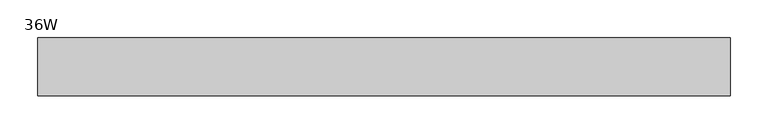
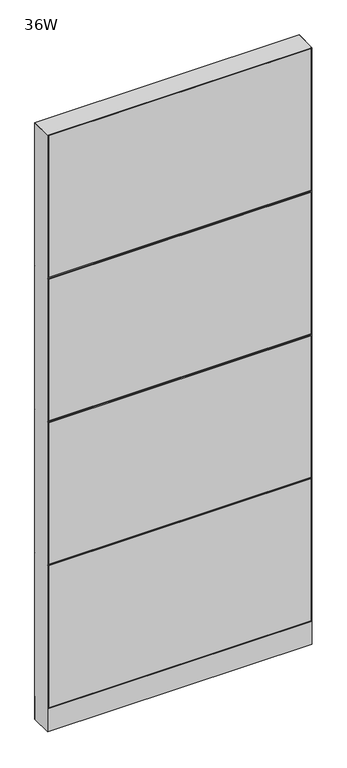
"""IFC4 building model written with IfcOpenShell, lengths in millimetres: furniture geometry, Steelcase - Montage - Frame - 86H - Enhanced Monolithic - Base Cavity : 36W."""

import ifcopenshell
import ifcopenshell.guid

model = None  # the IFC model being written
_history = None  # IfcOwnerHistory: only IFC2X3 demands one
_inside = {}  # id of a spatial element -> (the spatial element, [elements in it])
_under = {}  # id of a project, library or spatial element -> (it, [spatial elements below it])
_declared = {}  # id of a project -> (the project, [libraries it declares])
_typed = {}  # id of a type object -> (the type object, [elements of that type])
_made_of = {}  # id of a material, layer set ... -> (it, [elements and type objects made of it])


def new_model(schema):
    """Start an empty IFC model of exactly this schema.

    Asked for "IFC4X3", IfcOpenShell would pick the latest addendum, in which some entities
    have other attributes; the version numbers below select the first issue.
    IFC2X3 requires an IfcOwnerHistory on every rooted entity: one is made here for all.
    """
    global model, _history
    if schema == "IFC4X3":
        model = ifcopenshell.file(schema_version=(4, 3, 0, 0))
    else:
        model = ifcopenshell.file(schema=schema)
    _inside.clear()
    _under.clear()
    _declared.clear()
    _typed.clear()
    _made_of.clear()
    _history = None
    if model.schema == "IFC2X3":
        org = make("IfcOrganization", Name="unknown")
        user = make(
            "IfcPersonAndOrganization",
            ThePerson=make("IfcPerson", FamilyName="unknown"),
            TheOrganization=org,
        )
        app = make(
            "IfcApplication",
            ApplicationDeveloper=org,
            Version="unknown",
            ApplicationFullName="unknown",
            ApplicationIdentifier="unknown",
        )
        _history = make(
            "IfcOwnerHistory",
            OwningUser=user,
            OwningApplication=app,
            ChangeAction="ADDED",
            CreationDate=0,
        )
    return model


def make(cls, **values):
    """One entity of the class cls with the attributes given. An attribute that is None is left unset."""
    return model.create_entity(
        cls, **{name: value for name, value in values.items() if value is not None}
    )


def rooted(cls, **values):
    """An entity with a GlobalId (a new one), such as an element, a storey or a relation."""
    return make(cls, GlobalId=ifcopenshell.guid.new(), OwnerHistory=_history, **values)


def si_unit(unit_type, name, prefix=None):
    """IfcSIUnit, for example si_unit("LENGTHUNIT", "METRE", prefix="MILLI")."""
    return make("IfcSIUnit", UnitType=unit_type, Prefix=prefix, Name=name)


def assignment(units):
    """IfcUnitAssignment: the units of a project."""
    return None if units is None else make("IfcUnitAssignment", Units=units)


def point(xyz):
    """IfcCartesianPoint."""
    return None if xyz is None else make("IfcCartesianPoint", Coordinates=xyz)


def direction(xyz):
    """IfcDirection."""
    return None if xyz is None else make("IfcDirection", DirectionRatios=xyz)


def frame(location, z_axis=None, x_axis=None):
    """IfcAxis2Placement3D, a coordinate frame: its origin and axes. An axis left out is left unset."""
    return make(
        "IfcAxis2Placement3D",
        Location=point(location),
        Axis=direction(z_axis),
        RefDirection=direction(x_axis),
    )


def frame_2d(location, x_axis=None):
    """IfcAxis2Placement2D, a coordinate frame in the plane: its origin and x axis."""
    return make(
        "IfcAxis2Placement2D", Location=point(location), RefDirection=direction(x_axis)
    )


def origin():
    """The frame at (0, 0, 0) with its axes left unset."""
    return frame((0.0, 0.0, 0.0))


def origin_with_axes():
    """The frame at (0, 0, 0) with the z axis (0, 0, 1) and the x axis (1, 0, 0) written out."""
    return frame((0.0, 0.0, 0.0), z_axis=(0.0, 0.0, 1.0), x_axis=(1.0, 0.0, 0.0))


def place(relative_to, where):
    """IfcLocalPlacement: puts the frame where relative to a parent placement (None: the world)."""
    return make(
        "IfcLocalPlacement", PlacementRelTo=relative_to, RelativePlacement=where
    )


def context(
    kind, dimensions, precision=None, world=None, true_north=None, identifier=None
):
    """IfcGeometricRepresentationContext, for example the 3D "Model" context."""
    return make(
        "IfcGeometricRepresentationContext",
        ContextIdentifier=identifier,
        ContextType=kind,
        CoordinateSpaceDimension=dimensions,
        Precision=precision,
        WorldCoordinateSystem=world,
        TrueNorth=true_north,
    )


def project(units=None, contexts=None):
    """IfcProject with its units and contexts."""
    return rooted(
        "IfcProject",
        Name="project",
        RepresentationContexts=contexts,
        UnitsInContext=assignment(units),
    )


def spatial(cls, under=None, at=None, **own):
    """A site, building, storey or space (cls), placed at a placement, below another one or the project."""
    s = rooted(cls, ObjectPlacement=at, **own)
    if under is not None:
        _under.setdefault(under.id(), (under, []))[1].append(s)
    return s


def polyline(points):
    """IfcPolyline through the points."""
    return make("IfcPolyline", Points=[point(p) for p in points])


def circle_curve(where, radius):
    """IfcCircle in the frame where."""
    return make("IfcCircle", Position=where, Radius=radius)


def trimmed(basis, trim1, trim2, sense, master):
    """IfcTrimmedCurve: the piece of a basis curve between two trims."""
    return make(
        "IfcTrimmedCurve",
        BasisCurve=basis,
        Trim1=trim1,
        Trim2=trim2,
        SenseAgreement=sense,
        MasterRepresentation=master,
    )


def segment(curve, same_sense, transition):
    """IfcCompositeCurveSegment."""
    return make(
        "IfcCompositeCurveSegment",
        Transition=transition,
        SameSense=same_sense,
        ParentCurve=curve,
    )


def composite_curve(segments, self_intersect=None):
    """IfcCompositeCurve: segments joined end to end."""
    return make("IfcCompositeCurve", Segments=segments, SelfIntersect=self_intersect)


def outline(outer, holes=None, kind="AREA"):
    """IfcArbitraryClosedProfileDef: a profile drawn as a closed curve; with holes, ...WithVoids."""
    if holes is None:
        return make("IfcArbitraryClosedProfileDef", ProfileType=kind, OuterCurve=outer)
    return make(
        "IfcArbitraryProfileDefWithVoids",
        ProfileType=kind,
        OuterCurve=outer,
        InnerCurves=holes,
    )


def extrude(swept, where, along, depth):
    """IfcExtrudedAreaSolid: the profile swept, set in the frame where, extruded along a direction by depth."""
    return make(
        "IfcExtrudedAreaSolid",
        SweptArea=swept,
        Position=where,
        ExtrudedDirection=direction(along),
        Depth=depth,
    )


def faces_of(points, faces, orient=None, outer=None):
    """IfcFace entities. A face is a list of loops; a loop is a list of indices into points, from 0.

    orient and outer hold one flag for each loop. By default every Orientation is true, the
    first loop of a face is its IfcFaceOuterBound and the others are IfcFaceBound.
    """
    made = []
    for i, loops in enumerate(faces):
        bounds = []
        for j, loop in enumerate(loops):
            is_outer = j == 0 if outer is None else outer[i][j]
            bounds.append(
                make(
                    "IfcFaceOuterBound" if is_outer else "IfcFaceBound",
                    Bound=make("IfcPolyLoop", Polygon=[points[k] for k in loop]),
                    Orientation=True if orient is None else orient[i][j],
                )
            )
        made.append(make("IfcFace", Bounds=bounds))
    return made


def faceted_brep(points, faces, orient=None, outer=None, voids=None):
    """IfcFacetedBrep: a solid bounded by flat faces; with voids (closed shells), ...WithVoids."""
    shared = [point(p) for p in points]
    hull = make("IfcClosedShell", CfsFaces=faces_of(shared, faces, orient, outer))
    if voids is None:
        return make("IfcFacetedBrep", Outer=hull)
    return make(
        "IfcFacetedBrepWithVoids",
        Outer=hull,
        Voids=[
            make(cls, CfsFaces=faces_of(shared, fs, o, b)) for cls, fs, o, b in voids
        ],
    )


def shape(context_of_items, identifier, shape_type, items):
    """IfcShapeRepresentation: the items that make up one representation, for example the "Body"."""
    return make(
        "IfcShapeRepresentation",
        ContextOfItems=context_of_items,
        RepresentationIdentifier=identifier,
        RepresentationType=shape_type,
        Items=items,
    )


def source(mapping_origin, context_of_items, identifier, shape_type, items):
    """IfcRepresentationMap: a shape defined once, which mapped items show again and again."""
    return make(
        "IfcRepresentationMap",
        MappingOrigin=mapping_origin,
        MappedRepresentation=shape(context_of_items, identifier, shape_type, items),
    )


def transform(
    local_origin,
    x_axis=None,
    y_axis=None,
    z_axis=None,
    scale=None,
    scale2=None,
    scale3=None,
    uniform=True,
):
    """IfcCartesianTransformationOperator3D, or its non-uniform kind. x_axis, y_axis, z_axis: its Axis1, 2, 3."""
    if uniform:
        return make(
            "IfcCartesianTransformationOperator3D",
            Axis1=direction(x_axis),
            Axis2=direction(y_axis),
            LocalOrigin=point(local_origin),
            Scale=scale,
            Axis3=direction(z_axis),
        )
    return make(
        "IfcCartesianTransformationOperator3DnonUniform",
        Axis1=direction(x_axis),
        Axis2=direction(y_axis),
        LocalOrigin=point(local_origin),
        Scale=scale,
        Axis3=direction(z_axis),
        Scale2=scale2,
        Scale3=scale3,
    )


def mapped(mapping_source, mapping_target):
    """IfcMappedItem: shows the shape of a source again, moved by a transform."""
    return make(
        "IfcMappedItem", MappingSource=mapping_source, MappingTarget=mapping_target
    )


def made_of(thing, what):
    """Note that an element or type object is made of a material, layer set ...; save() writes the relation."""
    if what is not None:
        _made_of.setdefault(what.id(), (what, []))[1].append(thing)
    return thing


def element(
    cls,
    number,
    at=None,
    inside=None,
    cuts=None,
    type_object=None,
    material=None,
    context=None,
    identifier="Body",
    shape_type=None,
    held_by="IfcProductDefinitionShape",
    body=None,
    shapes=None,
    **own,
):
    """One element of the class cls, such as IfcWall. Its Tag is "e" and its number.

    at: its placement. inside: the storey or other place that contains it. cuts: it is an
    opening in that element (IfcRelVoidsElement). A single representation is given by context,
    identifier, shape_type and body (its items); several are given by shapes. held_by: the class
    of the entity that holds the representations. save() writes the other relations.
    """
    e = rooted(cls, Tag="e%d" % number, ObjectPlacement=at, **own)
    if body is not None:
        shapes = [shape(context, identifier, shape_type, body)]
    if shapes is not None:
        e.Representation = make(held_by, Representations=shapes)
    if inside is not None:
        _inside.setdefault(inside.id(), (inside, []))[1].append(e)
    if cuts is not None:
        rooted(
            "IfcRelVoidsElement", RelatingBuildingElement=cuts, RelatedOpeningElement=e
        )
    if type_object is not None:
        _typed.setdefault(type_object.id(), (type_object, []))[1].append(e)
    return made_of(e, material)


def aggregate(whole, parts):
    """IfcRelAggregates: a whole, such as a stair, and the parts it consists of."""
    return rooted("IfcRelAggregates", RelatingObject=whole, RelatedObjects=parts)


def save(model, path):
    """Write the relations noted so far, then the file.

    IfcRelAggregates (storeys below a building ...), IfcRelContainedInSpatialStructure (elements
    in a storey), IfcRelDefinesByType, IfcRelAssociatesMaterial and IfcRelDeclares: one each for
    every whole, place, type object, material and project.
    """
    for whole, parts in _under.values():
        aggregate(whole, parts)
    for where, things in _inside.values():
        rooted(
            "IfcRelContainedInSpatialStructure",
            RelatedElements=things,
            RelatingStructure=where,
        )
    for kind, things in _typed.values():
        rooted("IfcRelDefinesByType", RelatedObjects=things, RelatingType=kind)
    for what, things in _made_of.values():
        rooted("IfcRelAssociatesMaterial", RelatedObjects=things, RelatingMaterial=what)
    for by, libraries in _declared.values():
        rooted("IfcRelDeclares", RelatingContext=by, RelatedDefinitions=libraries)
    model.write(path)


def furniture_36w_d619b393(model_context):
    return source(origin(), model_context, "Body", "SolidModel", [
        faceted_brep([(-5.4e-06, 38.102627, 1136.6500027), (6.3499917, 31.7526299, 1142.9999997), (908.0500047, 31.7526299, 1142.9999997), (914.4, 38.1026253, 1136.6500044), (908.0500047, 31.7526299, 1130.3000003), (6.3499917, 31.7526299, 1130.3000003)], [[[0, 1, 2, 3]], [[3, 4, 5, 0]], [[1, 5, 4, 2]], [[0, 5, 1]], [[2, 4, 3]]]),
        faceted_brep([(-5.4e-06, 38.102627, 612.7750027), (6.3499917, 31.7526299, 619.1249997), (908.0500047, 31.7526299, 619.1249997), (914.4, 38.1026253, 612.7750044), (908.0500047, 31.7526299, 606.4250003), (6.3499917, 31.7526299, 606.4250003)], [[[0, 1, 2, 3]], [[3, 4, 5, 0]], [[1, 5, 4, 2]], [[0, 5, 1]], [[2, 4, 3]]]),
        faceted_brep([(-5.4e-06, 38.102627, 1660.5250027), (6.3499917, 31.7526299, 1666.8749997), (908.0500047, 31.7526299, 1666.8749997), (914.4, 38.1026253, 1660.5250044), (908.0500047, 31.7526299, 1654.1750003), (6.3499917, 31.7526299, 1654.1750003)], [[[0, 1, 2, 3]], [[3, 4, 5, 0]], [[1, 5, 4, 2]], [[0, 5, 1]], [[2, 4, 3]]]),
        extrude(outline(polyline([(3.175, 31.7500194), (3.175, 38.1000194), (911.225, 38.1000194), (911.225, 31.7500194), (3.175, 31.7500194)])), frame((0.0, 0.0, 1663.7), z_axis=(0.0, 0.0, 1.0), x_axis=(1.0, 0.0, 0.0)), (0.0, 0.0, 1.0), 517.525),
        extrude(outline(polyline([(3.175, 31.7500194), (3.175, 38.1000194), (911.225, 38.1000194), (911.225, 31.7500194), (3.175, 31.7500194)])), frame((0.0, 0.0, 92.075), z_axis=(0.0, 0.0, 1.0), x_axis=(1.0, 0.0, 0.0)), (0.0, 0.0, 1.0), 517.525),
        extrude(outline(polyline([(3.175, 31.7500194), (3.175, 38.1000194), (911.225, 38.1000194), (911.225, 31.7500194), (3.175, 31.7500194)])), frame((0.0, 0.0, 615.95), z_axis=(0.0, 0.0, 1.0), x_axis=(1.0, 0.0, 0.0)), (0.0, 0.0, 1.0), 517.525),
        extrude(outline(polyline([(3.175, 31.7500194), (3.175, 38.1000194), (911.225, 38.1000194), (911.225, 31.7500194), (3.175, 31.7500194)])), frame((0.0, 0.0, 1139.825), z_axis=(0.0, 0.0, 1.0), x_axis=(1.0, 0.0, 0.0)), (0.0, 0.0, 1.0), 517.525),
        faceted_brep([(0.0, -38.1026297, 1136.65), (914.4, -38.1026297, 1136.65), (908.0500047, -31.7526299, 1142.9999997), (6.3499917, -31.7526299, 1142.9999997), (6.3499917, -31.7526299, 1130.3000003), (908.0500047, -31.7526299, 1130.3000003)], [[[0, 1, 2, 3]], [[1, 0, 4, 5]], [[3, 2, 5, 4]], [[0, 3, 4]], [[2, 1, 5]]]),
        faceted_brep([(0.0, -38.1026297, 612.775), (914.4, -38.1026297, 612.775), (908.0500047, -31.7526299, 619.1249997), (6.3499917, -31.7526299, 619.1249997), (6.3499917, -31.7526299, 606.4250003), (908.0500047, -31.7526299, 606.4250003)], [[[0, 1, 2, 3]], [[1, 0, 4, 5]], [[3, 2, 5, 4]], [[0, 3, 4]], [[2, 1, 5]]]),
        faceted_brep([(0.0, -38.1026297, 1660.525), (914.4, -38.1026297, 1660.525), (908.0500047, -31.7526299, 1666.8749997), (6.3499917, -31.7526299, 1666.8749997), (6.3499917, -31.7526299, 1654.1750003), (908.0500047, -31.7526299, 1654.1750003)], [[[0, 1, 2, 3]], [[1, 0, 4, 5]], [[3, 2, 5, 4]], [[0, 3, 4]], [[2, 1, 5]]]),
        extrude(outline(polyline([(3.175, -31.7500194), (911.225, -31.7500194), (911.225, -38.1000194), (3.175, -38.1000194), (3.175, -31.7500194)])), frame((0.0, 0.0, 1663.7), z_axis=(0.0, 0.0, 1.0), x_axis=(1.0, 0.0, 0.0)), (0.0, 0.0, 1.0), 517.525),
        extrude(outline(polyline([(3.175, -31.7500194), (911.225, -31.7500194), (911.225, -38.1000194), (3.175, -38.1000194), (3.175, -31.7500194)])), frame((0.0, 0.0, 92.075), z_axis=(0.0, 0.0, 1.0), x_axis=(1.0, 0.0, 0.0)), (0.0, 0.0, 1.0), 517.525),
        extrude(outline(polyline([(3.175, -31.7500194), (911.225, -31.7500194), (911.225, -38.1000194), (3.175, -38.1000194), (3.175, -31.7500194)])), frame((0.0, 0.0, 615.95), z_axis=(0.0, 0.0, 1.0), x_axis=(1.0, 0.0, 0.0)), (0.0, 0.0, 1.0), 517.525),
        extrude(outline(polyline([(3.175, -31.7500194), (911.225, -31.7500194), (911.225, -38.1000194), (3.175, -38.1000194), (3.175, -31.7500194)])), frame((0.0, 0.0, 1139.825), z_axis=(0.0, 0.0, 1.0), x_axis=(1.0, 0.0, 0.0)), (0.0, 0.0, 1.0), 517.525),
        extrude(outline(polyline([(6.350003, -31.7499985), (908.049997, -31.7499985), (914.4, -38.1000015), (0.0, -38.1000015), (6.350003, -31.7499985)])), frame((0.0, 0.0, 4.064), z_axis=(0.0, 0.0, 1.0), x_axis=(1.0, 0.0, 0.0)), (0.0, 0.0, 1.0), 84.835997),
        extrude(outline(polyline([(6.3500002, 31.7500017), (0.0, 38.1000015), (914.4, 38.1000015), (908.0500002, 31.7500017), (6.3500002, 31.7500017)])), frame((0.0, 0.0, 4.064), z_axis=(0.0, 0.0, 1.0), x_axis=(1.0, 0.0, 0.0)), (0.0, 0.0, 1.0), 84.835997),
        faceted_brep([(914.4, -38.1000015, 2184.4), (0.0, -38.1000015, 2184.4), (6.3500484, -31.749953, 2178.0499516), (908.0499516, -31.749953, 2178.0499516), (6.3500484, 31.749953, 2178.0499516), (908.0499516, 31.749953, 2178.0499516), (0.0, 38.1000015, 2184.4), (914.4, 38.1000015, 2184.4)], [[[0, 1, 2, 3]], [[3, 2, 4, 5]], [[6, 7, 5, 4]], [[1, 0, 7, 6]], [[2, 1, 6, 4]], [[0, 3, 5, 7]]]),
        extrude(outline(composite_curve([segment(trimmed(circle_curve(frame_2d((44.45, 0.0)), 15.24), [point((29.21, 0.0))], [point((59.69, 0.0))], False, "CARTESIAN"), True, "CONTINUOUS"), segment(trimmed(circle_curve(frame_2d((44.45, 0.0)), 15.24), [point((59.69, 0.0))], [point((29.21, 0.0))], False, "CARTESIAN"), True, "CONTINUOUS")], self_intersect=False)), origin_with_axes(), (0.0, 0.0, 1.0), 4.064),
        extrude(outline(composite_curve([segment(trimmed(circle_curve(frame_2d((869.95, 0.0)), 15.24), [point((854.71, 0.0))], [point((885.19, 0.0))], False, "CARTESIAN"), True, "CONTINUOUS"), segment(trimmed(circle_curve(frame_2d((869.95, 0.0)), 15.24), [point((885.19, 0.0))], [point((854.71, 0.0))], False, "CARTESIAN"), True, "CONTINUOUS")], self_intersect=False)), origin_with_axes(), (0.0, 0.0, 1.0), 4.064),
        faceted_brep([(914.4, -38.1000106, 4.064), (914.4, 38.1000015, 4.064), (914.4, 38.1000015, 2184.4), (914.4, -38.1000106, 2184.3999637), (0.0, 38.1000015, 4.064), (0.0, -38.1000015, 4.064), (0.0, -38.1000015, 2184.4), (0.0, 38.1000015, 2184.4), (908.0499879, 31.7500017, 606.425), (6.35, 31.7500017, 606.425), (6.3499998, 31.7500017, 619.125), (908.0499879, 31.7500017, 619.125), (6.35, -31.7499985, 619.125), (908.0499879, -31.7499985, 619.125), (6.350003, -31.7499985, 606.425), (908.0499879, -31.7499985, 606.425), (908.0499879, 31.7500017, 1130.3), (6.35, 31.7500017, 1130.3), (6.3499998, 31.7500017, 1143.0), (908.0499879, 31.7500017, 1143.0), (6.35, -31.7499985, 1143.0), (908.0499879, -31.7499985, 1143.0), (6.350003, -31.7499985, 1130.3), (908.0499879, -31.7499985, 1130.3), (908.0499879, 31.7500017, 1654.175), (6.35, 31.7500017, 1654.175), (6.3499998, 31.7500017, 1666.875), (908.0499879, 31.7500017, 1666.875), (6.35, -31.7499985, 1666.875), (908.0499879, -31.7499985, 1666.875), (6.350003, -31.7499985, 1654.175), (908.0499879, -31.7499985, 1654.175), (6.35, 31.7500015, 4.064), (6.35, -31.7500015, 4.064), (908.0499879, 31.7499894, 4.064), (908.0499879, -31.7499985, 4.064), (6.35, 31.7500015, 2178.05), (6.35, -31.7500015, 2178.05), (908.0499879, -31.7499985, 2178.0499516), (908.0499879, 31.7499895, 2178.0499516)], [[[0, 1, 2, 3]], [[4, 5, 6, 7]], [[8, 9, 10, 11]], [[11, 10, 12, 13]], [[13, 12, 14, 15]], [[9, 8, 15, 14]], [[16, 17, 18, 19]], [[19, 18, 20, 21]], [[21, 20, 22, 23]], [[17, 16, 23, 22]], [[24, 25, 26, 27]], [[27, 26, 28, 29]], [[29, 28, 30, 31]], [[25, 24, 31, 30]], [[32, 33, 5, 4]], [[34, 1, 0, 35]], [[32, 4, 7, 36, 26, 25, 18, 17, 10, 9]], [[5, 33, 14, 12, 22, 20, 30, 28, 37, 6]], [[33, 32, 9, 14]], [[10, 17, 22, 12]], [[18, 25, 30, 20]], [[28, 26, 36, 37]], [[34, 35, 15, 8]], [[16, 11, 13, 23]], [[24, 19, 21, 31]], [[27, 29, 38, 39]], [[35, 0, 3, 38, 29, 31, 21, 23, 13, 15]], [[1, 34, 8, 11, 16, 19, 24, 27, 39, 2]], [[7, 6, 37, 36]], [[3, 2, 39, 38]]]),
    ])


if __name__ == "__main__":
    model = new_model("IFC4")
    model_context = context("Model", 3, world=origin())
    ifc_project = project(units=[si_unit("LENGTHUNIT", "METRE", prefix="MILLI")], contexts=[model_context])
    site = spatial("IfcSite", under=ifc_project)
    building = spatial("IfcBuilding", under=site)
    placement = place(None, origin())
    furniture_36w_shape = furniture_36w_d619b393(model_context)
    element("IfcFurniture", 1, ObjectType="Steelcase - Montage - Frame - 86H - Enhanced Monolithic - Base Cavity : 36W", at=placement, inside=building, context=model_context, shape_type="MappedRepresentation", body=[
        mapped(furniture_36w_shape, transform((0.0, 0.0, 0.0), x_axis=(1.0, 0.0, 0.0), y_axis=(0.0, 1.0, 0.0), z_axis=(0.0, 0.0, 1.0))),
    ])
    save(model, "model.ifc")
